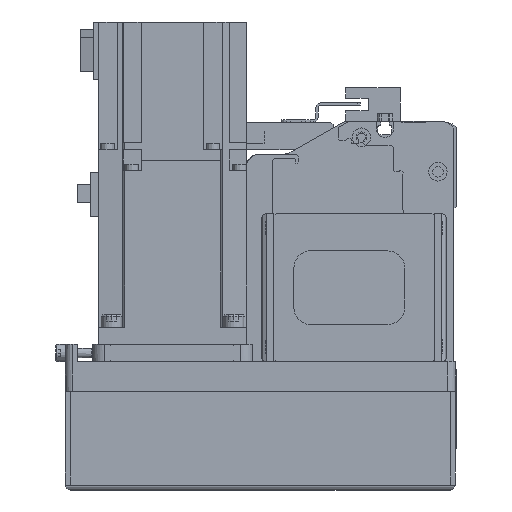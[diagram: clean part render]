
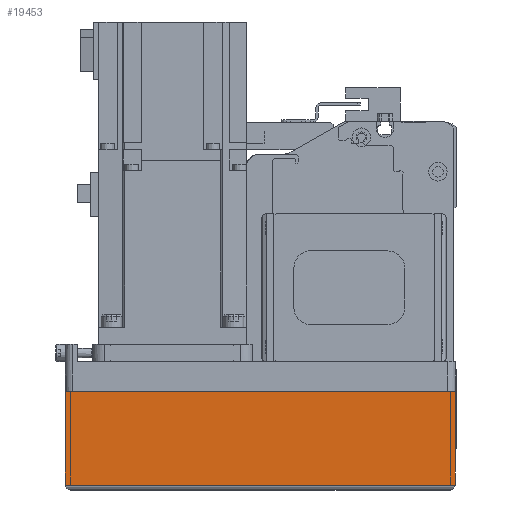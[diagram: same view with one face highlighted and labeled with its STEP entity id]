
A CAD part, left-side view. The second image highlights one B-rep face of the part: STEP entity #19453.
In plain terms, the highlighted planar face has unit normal (-1, 0, 0) as drawn and (0, -1, 0) by its records, which use the part's own axes.
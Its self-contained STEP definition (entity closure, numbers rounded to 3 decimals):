
#2994=ORIENTED_EDGE('',*,*,#7789,.F.);
#2995=ORIENTED_EDGE('',*,*,#7771,.F.);
#2996=ORIENTED_EDGE('',*,*,#7806,.T.);
#2997=ORIENTED_EDGE('',*,*,#7861,.T.);
#7771=EDGE_CURVE('',#10359,#10360,#12349,.T.);
#7789=EDGE_CURVE('',#10360,#10376,#12367,.T.);
#7806=EDGE_CURVE('',#10359,#10386,#12380,.T.);
#7861=EDGE_CURVE('',#10386,#10376,#12408,.T.);
#10359=VERTEX_POINT('',#29782);
#10360=VERTEX_POINT('',#29783);
#10376=VERTEX_POINT('',#29820);
#10386=VERTEX_POINT('',#29850);
#12349=LINE('',#29781,#14059);
#12367=LINE('',#29819,#14077);
#12380=LINE('',#29851,#14090);
#12408=LINE('',#29949,#14118);
#14059=VECTOR('',#23831,1000.);
#14077=VECTOR('',#23855,1000.);
#14090=VECTOR('',#23884,1000.);
#14118=VECTOR('',#24012,1000.);
#15657=EDGE_LOOP('',(#2994,#2995,#2996,#2997));
#17247=FACE_BOUND('',#15657,.T.);
#18664=PLANE('',#20866);
#19453=ADVANCED_FACE('',(#17247),#18664,.T.);
#20866=AXIS2_PLACEMENT_3D('',#29950,#24013,#24014);
#23831=DIRECTION('',(1.,0.,0.));
#23855=DIRECTION('',(0.,0.,-1.));
#23884=DIRECTION('',(0.,0.,-1.));
#24012=DIRECTION('',(1.,0.,0.));
#24013=DIRECTION('',(0.,-1.,0.));
#24014=DIRECTION('',(0.,0.,-1.));
#29781=CARTESIAN_POINT('',(-158.,-39.,-12.1));
#29782=CARTESIAN_POINT('',(-158.,-39.,-12.1));
#29783=CARTESIAN_POINT('',(0.,-39.,-12.1));
#29819=CARTESIAN_POINT('',(0.,-39.,-12.1));
#29820=CARTESIAN_POINT('',(0.,-39.,-50.));
#29850=CARTESIAN_POINT('',(-158.,-39.,-50.));
#29851=CARTESIAN_POINT('',(-158.,-39.,-12.1));
#29949=CARTESIAN_POINT('',(-158.,-39.,-50.));
#29950=CARTESIAN_POINT('',(-158.,-39.,-12.1));
